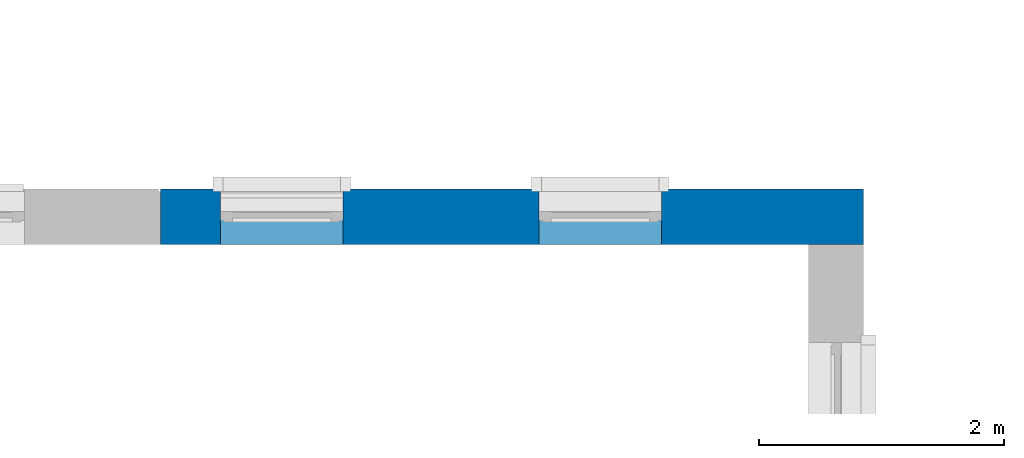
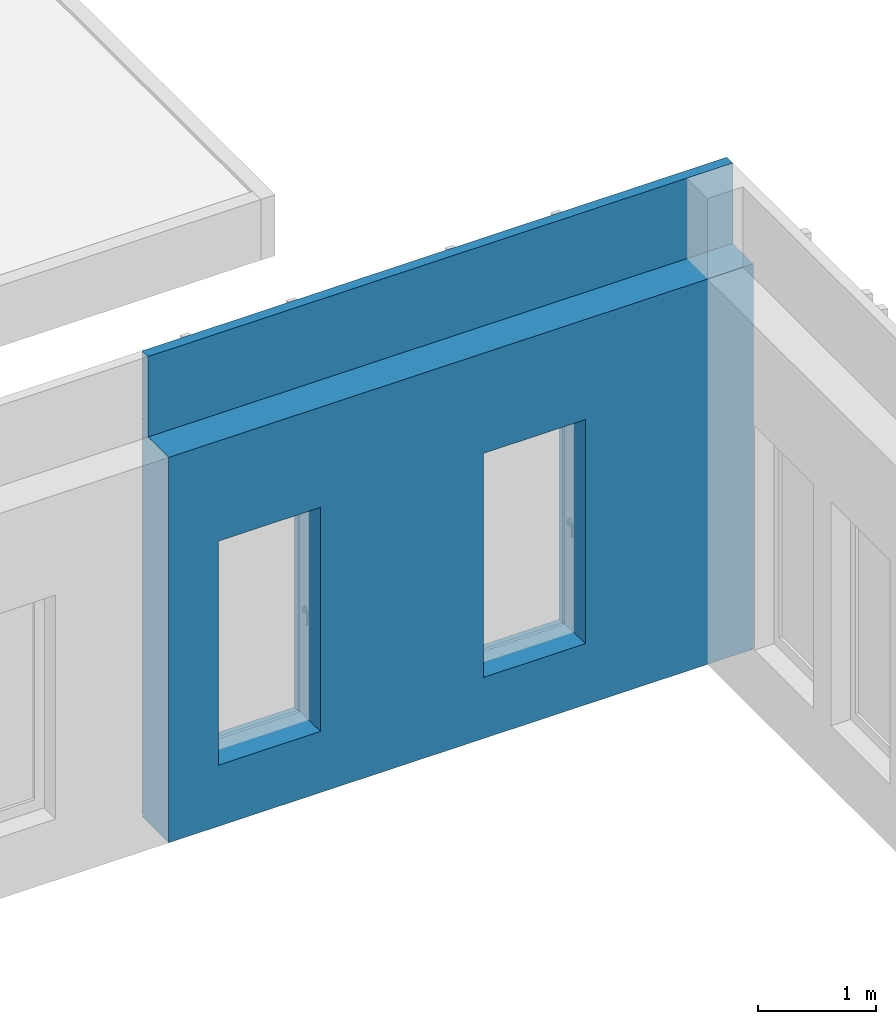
# One storey, part 13 of 33: 1 wall, 4 openings.
"""IFC2X3 building model written with IfcOpenShell, lengths in millimetres."""

from ifc_helpers import new_model, entity, si_unit, converted_unit, derived_unit, direction, frame, frame_2d, origin, place, context, subcontext, project, spatial, polyline, rectangle, extrude, clip, bounded_halfspace, faceted_brep, material, layer, layer_set, layer_usage, type_object, element, save


model = new_model("IFC2X3")

# Units and contexts
model_context = context("Model", 3, precision=0.01, world=origin(), true_north=direction((6.12303176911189e-17, 1.0)))
body_context = subcontext(model_context, "Body", "Model", "MODEL_VIEW")
ifc_project = project(units=[si_unit("LENGTHUNIT", "METRE", prefix="MILLI"), si_unit("AREAUNIT", "SQUARE_METRE"), si_unit("VOLUMEUNIT", "CUBIC_METRE"), converted_unit("PLANEANGLEUNIT", "DEGREE", entity("IfcRatioMeasure", 0.0174532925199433), si_unit("PLANEANGLEUNIT", "RADIAN"), dimensions=[0, 0, 0, 0, 0, 0, 0]), si_unit("MASSUNIT", "GRAM", prefix="KILO"), derived_unit("MASSDENSITYUNIT", [(si_unit("MASSUNIT", "GRAM", prefix="KILO"), 1), (si_unit("LENGTHUNIT", "METRE"), -3)]), si_unit("TIMEUNIT", "SECOND"), si_unit("FREQUENCYUNIT", "HERTZ"), si_unit("THERMODYNAMICTEMPERATUREUNIT", "DEGREE_CELSIUS"), derived_unit("THERMALTRANSMITTANCEUNIT", [(si_unit("MASSUNIT", "GRAM", prefix="KILO"), 1), (si_unit("THERMODYNAMICTEMPERATUREUNIT", "KELVIN"), -1), (si_unit("TIMEUNIT", "SECOND"), -3)]), derived_unit("VOLUMETRICFLOWRATEUNIT", [(si_unit("LENGTHUNIT", "METRE"), 3), (si_unit("TIMEUNIT", "SECOND"), -1)]), si_unit("ELECTRICCURRENTUNIT", "AMPERE"), si_unit("ELECTRICVOLTAGEUNIT", "VOLT"), si_unit("POWERUNIT", "WATT"), si_unit("FORCEUNIT", "NEWTON", prefix="KILO"), si_unit("ILLUMINANCEUNIT", "LUX"), si_unit("LUMINOUSFLUXUNIT", "LUMEN"), si_unit("LUMINOUSINTENSITYUNIT", "CANDELA"), derived_unit("USERDEFINED", [(si_unit("MASSUNIT", "GRAM", prefix="KILO"), -1), (si_unit("LENGTHUNIT", "METRE"), -2), (si_unit("TIMEUNIT", "SECOND"), 3), (si_unit("LUMINOUSFLUXUNIT", "LUMEN"), 1)]), derived_unit("LINEARVELOCITYUNIT", [(si_unit("LENGTHUNIT", "METRE"), 1), (si_unit("TIMEUNIT", "SECOND"), -1)]), si_unit("PRESSUREUNIT", "PASCAL"), derived_unit("USERDEFINED", [(si_unit("LENGTHUNIT", "METRE"), -2), (si_unit("MASSUNIT", "GRAM", prefix="KILO"), 1), (si_unit("TIMEUNIT", "SECOND"), -2)])], contexts=[model_context])

# Site, building, storey
site_placement = place(None, origin())
site = spatial("IfcSite", under=ifc_project, at=site_placement, Name="Default", CompositionType="ELEMENT")
building_placement = place(site_placement, origin())
building = spatial("IfcBuilding", under=site, at=building_placement, CompositionType="ELEMENT")
storey_placement = place(building_placement, frame((0.0, 0.0, 4000.0)))
storey = spatial("IfcBuildingStorey", under=building, at=storey_placement, Name="2. KORRUS", CompositionType="ELEMENT", Elevation=4000.0)

# Wall, openings
ifc_material_1 = material(Name="RECKLI 1 173 THUR by Polantis 2016-toon4")
ifc_layer_1 = layer(ifc_material_1, 100.0)
ifc_material_2 = material(Name="Soojusisolatsioon EPS")
ifc_layer_2 = layer(ifc_material_2, 200.0)
ifc_material_3 = material(Name="r/b")
ifc_layer_3 = layer(ifc_material_3, 150.0)
ifc_layer_set = layer_set([ifc_layer_1, ifc_layer_2, ifc_layer_3], Name="Basic Wall:VS-1_toon-a")
ifc_layer_usage = layer_usage(ifc_layer_set, "AXIS2", "NEGATIVE", 225.0)
wall_type = type_object("IfcWallType", Name="Basic Wall:VS-1_toon-a", PredefinedType="STANDARD", material=ifc_layer_set)
wall_placement = place(storey_placement, frame((3910.0, 27825.0, -135.0)))
wall = element("IfcWallStandardCase", 1, at=wall_placement, inside=storey, type_object=wall_type, material=ifc_layer_usage, Name="Basic Wall:VS-1_toon-a", ObjectType="Basic Wall:VS-1_toon-a", context=body_context, shape_type="Clipping", body=[
    clip(extrude(rectangle(XDim=5739.99999999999, YDim=450.000000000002, at=frame_2d((2870.0, 8.10018718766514e-13), x_axis=(-1.0, 0.0))), origin(), (0.0, 0.0, 1.0), 4835.0), bounded_halfspace(frame((0.0, -225.0, 4000.0), z_axis=(0.0, 0.0, 1.0), x_axis=(0.0, 1.0, 0.0)), False, frame((0.0, -225.0, 4000.0)), polyline([(0.0, 0.0), (5290.0, 0.0), (5740.0, 0.0), (5740.0, 350.0), (5640.0, 350.0), (0.0, 350.0), (0.0, 0.0)]))),
])
opening_1_placement = place(wall_placement, frame((-4360.0, -28275.0, 4.0)))
element("IfcOpeningElement", 2, at=opening_1_placement, cuts=wall, Name="Basic Wall:VS-1_toon-a", ObjectType="Opening", context=body_context, shape_type="Brep", body=[
    faceted_brep([(11850.0, 20.0, 16.0), (11850.0, 0.0, 16.0), (11850.0, 0.0, 0.0), (11850.0, 20.0, 0.0), (4260.0, 20.0, 16.0), (4260.0, 20.0, 0.0), (4260.0, 0.0, 0.0), (4260.0, 0.0, 16.0)], [[[0, 1, 2, 3]], [[4, 5, 6, 7]], [[1, 0, 4, 7]], [[2, 1, 7, 6]], [[3, 2, 6, 5]], [[0, 3, 5, 4]]]),
    faceted_brep([(20.0, 28480.0, 16.0), (20.0, 28480.0, 0.0), (0.0, 28500.0, 0.0), (0.0, 28500.0, 16.0), (20.0, 23740.0, 16.0), (0.0, 23740.0, 16.0), (0.0, 23740.0, 0.0), (20.0, 23740.0, 0.0)], [[[0, 1, 2, 3]], [[4, 5, 6, 7]], [[1, 0, 4, 7]], [[2, 1, 7, 6]], [[3, 2, 6, 5]], [[0, 3, 5, 4]]]),
    faceted_brep([(10080.0, 22380.0517807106, 16.0), (10100.0, 22400.0517807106, 16.0), (10100.0, 22400.0517807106, 0.0), (10080.0, 22380.0517807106, 0.0), (15330.3475962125, 22380.0517807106, 16.0), (15330.3475962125, 22380.0517807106, 0.0), (15330.3475962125, 22400.0517807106, 0.0), (15330.3475962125, 22400.0517807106, 16.0)], [[[0, 1, 2, 3]], [[4, 5, 6, 7]], [[1, 0, 4, 7]], [[2, 1, 7, 6]], [[3, 2, 6, 5]], [[0, 3, 5, 4]]]),
    faceted_brep([(20.0, 28480.0, 16.0), (0.0, 28500.0, 16.0), (0.0, 28500.0, 0.0), (20.0, 28480.0, 0.0), (4360.0, 28480.0, 16.0), (4360.0, 28480.0, 0.0), (4360.0, 28500.0, 0.0), (4360.0, 28500.0, 16.0)], [[[0, 1, 2, 3]], [[4, 5, 6, 7]], [[1, 0, 4, 7]], [[2, 1, 7, 6]], [[3, 2, 6, 5]], [[0, 3, 5, 4]]]),
    faceted_brep([(40380.0, 20.0, 16.0), (40400.0, 0.0, 16.0), (40400.0, 0.0, 0.0), (40380.0, 20.0, 0.0), (35250.0, 20.0, 16.0), (35250.0, 20.0, 0.0), (35250.0, 0.0, 0.0), (35250.0, 0.0, 16.0)], [[[0, 1, 2, 3]], [[4, 5, 6, 7]], [[1, 0, 4, 7]], [[2, 1, 7, 6]], [[3, 2, 6, 5]], [[0, 3, 5, 4]]]),
    faceted_brep([(34420.1035702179, 22380.0517807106, 16.0), (34420.1035702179, 22400.0517807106, 16.0), (34420.1035702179, 22400.0517807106, 0.0), (34420.1035702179, 22380.0517807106, 0.0), (40380.0, 22380.0517807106, 16.0), (40380.0, 22380.0517807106, 0.0), (40400.0, 22400.0517807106, 0.0), (40400.0, 22400.0517807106, 16.0)], [[[0, 1, 2, 3]], [[4, 5, 6, 7]], [[1, 0, 4, 7]], [[2, 1, 7, 6]], [[3, 2, 6, 5]], [[0, 3, 5, 4]]]),
    faceted_brep([(29113.2161487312, 22380.0517807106, 16.0), (29113.2161487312, 22400.0517807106, 16.0), (29113.2161487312, 22400.0517807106, 0.0), (29113.2161487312, 22380.0517807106, 0.0), (34420.1035702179, 22380.0517807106, 16.0), (34420.1035702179, 22380.0517807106, 0.0), (34420.1035702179, 22400.0517807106, 0.0), (34420.1035702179, 22400.0517807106, 16.0)], [[[0, 1, 2, 3]], [[4, 5, 6, 7]], [[1, 0, 4, 7]], [[2, 1, 7, 6]], [[3, 2, 6, 5]], [[0, 3, 5, 4]]]),
    faceted_brep([(10080.0, 28480.0, 16.0), (10100.0, 28500.0, 16.0), (10100.0, 28500.0, 0.0), (10080.0, 28480.0, 0.0), (10080.0, 22380.0517807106, 16.0), (10080.0, 22380.0517807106, 0.0), (10100.0, 22400.0517807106, 0.0), (10100.0, 22400.0517807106, 16.0)], [[[0, 1, 2, 3]], [[4, 5, 6, 7]], [[1, 0, 4, 7]], [[2, 1, 7, 6]], [[3, 2, 6, 5]], [[0, 3, 5, 4]]]),
    faceted_brep([(4260.0, 20.0, 16.0), (4260.0, 0.0, 16.0), (4260.0, 0.0, 0.0), (4260.0, 20.0, 0.0), (0.0, 20.0, 16.0), (0.0, 20.0, 0.0), (0.0, 0.0, 0.0), (0.0, 0.0, 16.0)], [[[0, 1, 2, 3]], [[4, 5, 6, 7]], [[1, 0, 4, 7]], [[2, 1, 7, 6]], [[3, 2, 6, 5]], [[0, 3, 5, 4]]]),
    faceted_brep([(40380.0, 4865.0, 16.0), (40400.0, 4865.0, 16.0), (40400.0, 4865.0, 0.0), (40380.0, 4865.0, 0.0), (40380.0, 20.0, 16.0), (40380.0, 20.0, 0.0), (40400.0, 0.0, 0.0), (40400.0, 0.0, 16.0)], [[[0, 1, 2, 3]], [[4, 5, 6, 7]], [[1, 0, 4, 7]], [[2, 1, 7, 6]], [[3, 2, 6, 5]], [[0, 3, 5, 4]]]),
    faceted_brep([(40380.0, 9093.33000000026, 16.0), (40400.0, 9093.33000000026, 16.0), (40400.0, 9093.33000000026, 0.0), (40380.0, 9093.33000000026, 0.0), (40380.0, 4865.0, 16.0), (40380.0, 4865.0, 0.0), (40400.0, 4865.0, 0.0), (40400.0, 4865.0, 16.0)], [[[0, 1, 2, 3]], [[4, 5, 6, 7]], [[1, 0, 4, 7]], [[2, 1, 7, 6]], [[3, 2, 6, 5]], [[0, 3, 5, 4]]]),
    faceted_brep([(40380.0, 13210.0, 16.0), (40400.0, 13210.0, 16.0), (40400.0, 13210.0, 0.0), (40380.0, 13210.0, 0.0), (40380.0, 9093.33000000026, 16.0), (40380.0, 9093.33000000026, 0.0), (40400.0, 9093.33000000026, 0.0), (40400.0, 9093.33000000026, 16.0)], [[[0, 1, 2, 3]], [[4, 5, 6, 7]], [[1, 0, 4, 7]], [[2, 1, 7, 6]], [[3, 2, 6, 5]], [[0, 3, 5, 4]]]),
    faceted_brep([(40380.0, 16240.0, 16.0), (40400.0, 16240.0, 16.0), (40400.0, 16240.0, 0.0), (40380.0, 16240.0, 0.0), (40380.0, 13210.0, 16.0), (40380.0, 13210.0, 0.0), (40400.0, 13210.0, 0.0), (40400.0, 13210.0, 16.0)], [[[0, 1, 2, 3]], [[4, 5, 6, 7]], [[1, 0, 4, 7]], [[2, 1, 7, 6]], [[3, 2, 6, 5]], [[0, 3, 5, 4]]]),
    faceted_brep([(40380.0, 22380.0517807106, 16.0), (40400.0, 22400.0517807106, 16.0), (40400.0, 22400.0517807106, 0.0), (40380.0, 22380.0517807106, 0.0), (40380.0, 16240.0, 16.0), (40380.0, 16240.0, 0.0), (40400.0, 16240.0, 0.0), (40400.0, 16240.0, 16.0)], [[[0, 1, 2, 3]], [[4, 5, 6, 7]], [[1, 0, 4, 7]], [[2, 1, 7, 6]], [[3, 2, 6, 5]], [[0, 3, 5, 4]]]),
    faceted_brep([(22535.0, 22380.0517807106, 16.0), (22535.0, 22400.0517807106, 16.0), (22535.0, 22400.0517807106, 0.0), (22535.0, 22380.0517807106, 0.0), (29113.2161487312, 22380.0517807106, 16.0), (29113.2161487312, 22380.0517807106, 0.0), (29113.2161487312, 22400.0517807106, 0.0), (29113.2161487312, 22400.0517807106, 16.0)], [[[0, 1, 2, 3]], [[4, 5, 6, 7]], [[1, 0, 4, 7]], [[2, 1, 7, 6]], [[3, 2, 6, 5]], [[0, 3, 5, 4]]]),
    faceted_brep([(18703.3528910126, 22380.0517807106, 16.0), (18703.3528910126, 22400.0517807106, 16.0), (18703.3528910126, 22400.0517807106, 0.0), (18703.3528910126, 22380.0517807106, 0.0), (22535.0, 22380.0517807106, 16.0), (22535.0, 22380.0517807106, 0.0), (22535.0, 22400.0517807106, 0.0), (22535.0, 22400.0517807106, 16.0)], [[[0, 1, 2, 3]], [[4, 5, 6, 7]], [[1, 0, 4, 7]], [[2, 1, 7, 6]], [[3, 2, 6, 5]], [[0, 3, 5, 4]]]),
    faceted_brep([(15330.3475962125, 22380.0517807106, 16.0), (15330.3475962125, 22400.0517807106, 16.0), (15330.3475962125, 22400.0517807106, 0.0), (15330.3475962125, 22380.0517807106, 0.0), (18703.3528910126, 22380.0517807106, 16.0), (18703.3528910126, 22380.0517807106, 0.0), (18703.3528910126, 22400.0517807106, 0.0), (18703.3528910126, 22400.0517807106, 16.0)], [[[0, 1, 2, 3]], [[4, 5, 6, 7]], [[1, 0, 4, 7]], [[2, 1, 7, 6]], [[3, 2, 6, 5]], [[0, 3, 5, 4]]]),
    faceted_brep([(4360.0, 28480.0, 16.0), (4360.0, 28500.0, 16.0), (4360.0, 28500.0, 0.0), (4360.0, 28480.0, 0.0), (10080.0, 28480.0, 16.0), (10080.0, 28480.0, 0.0), (10100.0, 28500.0, 0.0), (10100.0, 28500.0, 16.0)], [[[0, 1, 2, 3]], [[4, 5, 6, 7]], [[1, 0, 4, 7]], [[2, 1, 7, 6]], [[3, 2, 6, 5]], [[0, 3, 5, 4]]]),
    faceted_brep([(20.0, 23740.0, 16.0), (20.0, 23740.0, 0.0), (0.0, 23740.0, 0.0), (0.0, 23740.0, 16.0), (20.0, 16890.0006972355, 16.0), (0.0, 16890.0006972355, 16.0), (0.0, 16890.0006972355, 0.0), (20.0, 16890.0006972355, 0.0)], [[[0, 1, 2, 3]], [[4, 5, 6, 7]], [[1, 0, 4, 7]], [[2, 1, 7, 6]], [[3, 2, 6, 5]], [[0, 3, 5, 4]]]),
    faceted_brep([(20.0, 16890.0006972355, 16.0), (20.0, 16890.0006972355, 0.0), (0.0, 16890.0006972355, 0.0), (0.0, 16890.0006972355, 16.0), (20.0, 13460.0, 16.0), (0.0, 13460.0, 16.0), (0.0, 13460.0, 0.0), (20.0, 13460.0, 0.0)], [[[0, 1, 2, 3]], [[4, 5, 6, 7]], [[1, 0, 4, 7]], [[2, 1, 7, 6]], [[3, 2, 6, 5]], [[0, 3, 5, 4]]]),
])
opening_2_placement = place(wall_placement, origin())
element("IfcOpeningElement", 3, at=opening_2_placement, cuts=wall, Name="Basic Wall:VS-1_toon-a", ObjectType="Opening", context=body_context, shape_type="SweptSolid", body=[
    extrude(rectangle(XDim=15.9999999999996, YDim=7590.0, at=frame_2d((0.0, -5.40900657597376e-13), x_axis=(0.0, 1.0))), frame((3695.0, -28275.0, 4147.0), z_axis=(0.0, 1.0, 0.0), x_axis=(-1.0, 0.0, 0.0)), (0.0, 0.0, 1.0), 20.0),
    extrude(rectangle(XDim=15.9999999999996, YDim=20.0, at=frame_2d((5.40900657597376e-13, -3.37507799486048e-14), x_axis=(1.0, 0.0))), frame((-4350.0, -4535.0, 4147.0), z_axis=(0.0, 1.0, 0.0), x_axis=(0.0, 0.0, -1.0)), (0.0, 0.0, 1.0), 4660.0),
    extrude(rectangle(XDim=15.9999999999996, YDim=5230.3475962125, at=frame_2d((0.0, 5.40900657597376e-13), x_axis=(0.0, 1.0))), frame((8355.17379810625, -5894.94821928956, 4147.0), z_axis=(0.0, 1.0, 0.0), x_axis=(1.0, 0.0, 0.0)), (0.0, 0.0, 1.0), 19.9999999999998),
    extrude(rectangle(XDim=15.9999999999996, YDim=4360.0, at=frame_2d((0.0, 5.40900657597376e-13), x_axis=(0.0, 1.0))), frame((-2180.0, 205.0, 4147.0), z_axis=(0.0, 1.0, 0.0), x_axis=(1.0, 0.0, 0.0)), (0.0, 0.0, 1.0), 19.9999999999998),
    extrude(rectangle(XDim=15.9999999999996, YDim=5050.0, at=frame_2d((2.27373675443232e-12, 0.0), x_axis=(0.0, 1.0))), frame((33415.0, -28275.0, 4147.0), z_axis=(0.0, 1.0, 0.0), x_axis=(-1.0, 0.0, 0.0)), (0.0, 0.0, 1.0), 20.0),
    extrude(rectangle(XDim=15.9999999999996, YDim=5979.89642978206, at=frame_2d((-2.27373675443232e-12, 0.0), x_axis=(0.0, 1.0))), frame((33050.051785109, -5894.94821928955, 4147.0), z_axis=(0.0, 1.0, 0.0), x_axis=(1.0, 0.0, 0.0)), (0.0, 0.0, 1.0), 19.9999999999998),
    extrude(rectangle(XDim=15.9999999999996, YDim=5306.88742148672, at=frame_2d((2.04636307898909e-12, 5.40900657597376e-13), x_axis=(0.0, 1.0))), frame((27406.6598594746, -5894.94821928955, 4147.0), z_axis=(0.0, 1.0, 0.0), x_axis=(1.0, 0.0, 0.0)), (0.0, 0.0, 1.0), 19.9999999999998),
    extrude(rectangle(XDim=15.9999999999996, YDim=19.9999999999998, at=frame_2d((0.0, 5.40900657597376e-13), x_axis=(0.0, 1.0))), frame((5730.0, -5974.94821928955, 4147.0), z_axis=(0.0, 1.0, 0.0), x_axis=(1.0, 0.0, 0.0)), (0.0, 0.0, 1.0), 6099.94821928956),
    extrude(rectangle(XDim=15.9999999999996, YDim=4160.00000000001, at=frame_2d((0.0, -5.40900657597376e-13), x_axis=(0.0, 1.0))), frame((-2180.0, -28275.0, 4147.0), z_axis=(0.0, 1.0, 0.0), x_axis=(-1.0, 0.0, 0.0)), (0.0, 0.0, 1.0), 20.0),
    extrude(rectangle(XDim=15.9999999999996, YDim=20.0000000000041, at=frame_2d((4.33164615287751e-12, 5.40900657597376e-13), x_axis=(0.0, 1.0))), frame((36030.0, -28275.0, 4147.0), z_axis=(0.0, 1.0, 0.0), x_axis=(1.0, 0.0, 0.0)), (0.0, 0.0, 1.0), 4865.0),
    extrude(rectangle(XDim=15.9999999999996, YDim=20.0000000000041, at=frame_2d((-4.33164615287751e-12, -5.40900657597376e-13), x_axis=(0.0, 1.0))), frame((36030.0, -23410.0, 4147.0), z_axis=(0.0, 1.0, 0.0), x_axis=(1.0, 0.0, 0.0)), (0.0, 0.0, 1.0), 4228.33000000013),
    extrude(rectangle(XDim=15.9999999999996, YDim=20.0000000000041, at=frame_2d((-4.33164615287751e-12, -5.40900657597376e-13), x_axis=(0.0, 1.0))), frame((36030.0, -19181.6699999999, 4147.0), z_axis=(0.0, 1.0, 0.0), x_axis=(1.0, 0.0, 0.0)), (0.0, 0.0, 1.0), 4236.66999997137),
    extrude(rectangle(XDim=15.9999999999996, YDim=20.0000000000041, at=frame_2d((4.33164615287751e-12, 5.40900657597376e-13), x_axis=(0.0, 1.0))), frame((36030.0, -14945.0, 4147.0), z_axis=(0.0, 1.0, 0.0), x_axis=(1.0, 0.0, 0.0)), (0.0, 0.0, 1.0), 2910.00000002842),
    extrude(rectangle(XDim=15.9999999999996, YDim=20.0000000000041, at=frame_2d((-4.33164615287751e-12, 5.40900657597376e-13), x_axis=(0.0, 1.0))), frame((36030.0, -12035.0, 4147.0), z_axis=(0.0, 1.0, 0.0), x_axis=(1.0, 0.0, 0.0)), (0.0, 0.0, 1.0), 6060.05178071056),
    extrude(rectangle(XDim=15.9999999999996, YDim=3831.64710898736, at=frame_2d((1.13686837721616e-12, 5.40900657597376e-13), x_axis=(0.0, 1.0))), frame((16259.1764455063, -5894.94821928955, 4147.0), z_axis=(0.0, 1.0, 0.0), x_axis=(1.0, 0.0, 0.0)), (0.0, 0.0, 1.0), 19.9999999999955),
    extrude(rectangle(XDim=15.9999999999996, YDim=3373.00529480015, at=frame_2d((0.0, 5.40900657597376e-13), x_axis=(0.0, 1.0))), frame((12656.8502436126, -5894.94821928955, 4147.0), z_axis=(0.0, 1.0, 0.0), x_axis=(1.0, 0.0, 0.0)), (0.0, 0.0, 1.0), 19.9999999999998),
    extrude(rectangle(XDim=15.9999999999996, YDim=5739.99999999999, at=frame_2d((-2.27373675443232e-13, 5.40900657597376e-13), x_axis=(0.0, 1.0))), frame((2870.0, 205.0, 4147.0), z_axis=(0.0, 1.0, 0.0), x_axis=(1.0, 0.0, 0.0)), (0.0, 0.0, 1.0), 19.9999999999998),
    extrude(rectangle(XDim=15.9999999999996, YDim=20.0, at=frame_2d((5.40900657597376e-13, -3.37507799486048e-14), x_axis=(1.0, 0.0))), frame((-4350.0, -11384.9993027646, 4147.0), z_axis=(0.0, 1.0, 0.0), x_axis=(0.0, 0.0, -1.0)), (0.0, 0.0, 1.0), 6849.99930276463),
    extrude(rectangle(XDim=15.9999999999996, YDim=20.0, at=frame_2d((5.40900657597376e-13, 3.37507799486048e-14), x_axis=(1.0, 0.0))), frame((-4350.0, -14815.0, 4147.0), z_axis=(0.0, 1.0, 0.0), x_axis=(0.0, 0.0, -1.0)), (0.0, 0.0, 1.0), 3430.00069726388),
    extrude(rectangle(XDim=15.9999999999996, YDim=6578.21614873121, at=frame_2d((0.0, 5.40900657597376e-13), x_axis=(0.0, 1.0))), frame((21464.1080743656, -5894.94821928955, 4147.0), z_axis=(0.0, 1.0, 0.0), x_axis=(1.0, 0.0, 0.0)), (0.0, 0.0, 1.0), 19.9999999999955),
    extrude(rectangle(XDim=15.9999999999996, YDim=4110.0, at=frame_2d((1.13686837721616e-12, -5.40900657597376e-13), x_axis=(0.0, 1.0))), frame((9545.0, -28275.0, 4147.0), z_axis=(0.0, 1.0, 0.0), x_axis=(-1.0, 0.0, 0.0)), (0.0, 0.0, 1.0), 19.9999999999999),
    extrude(rectangle(XDim=15.9999999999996, YDim=4600.0, at=frame_2d((-2.27373675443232e-12, -5.40900657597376e-13), x_axis=(0.0, 1.0))), frame((13900.0, -28275.0, 4147.0), z_axis=(0.0, 1.0, 0.0), x_axis=(-1.0, 0.0, 0.0)), (0.0, 0.0, 1.0), 20.0),
    extrude(rectangle(XDim=15.9999999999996, YDim=4600.0, at=frame_2d((2.27373675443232e-12, -5.40900657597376e-13), x_axis=(0.0, 1.0))), frame((18500.0, -28275.0, 4147.0), z_axis=(0.0, 1.0, 0.0), x_axis=(-1.0, 0.0, 0.0)), (0.0, 0.0, 1.0), 20.0),
    extrude(rectangle(XDim=15.9999999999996, YDim=5299.99999999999, at=frame_2d((-2.04636307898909e-12, -5.40900657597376e-13), x_axis=(0.0, 1.0))), frame((23450.0, -28275.0, 4147.0), z_axis=(0.0, 1.0, 0.0), x_axis=(-1.0, 0.0, 0.0)), (0.0, 0.0, 1.0), 20.0),
    extrude(rectangle(XDim=15.9999999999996, YDim=4790.0, at=frame_2d((0.0, -5.40900657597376e-13), x_axis=(0.0, 1.0))), frame((28495.0, -28275.0, 4147.0), z_axis=(0.0, 1.0, 0.0), x_axis=(-1.0, 0.0, 0.0)), (0.0, 0.0, 1.0), 20.0000000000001),
    extrude(rectangle(XDim=15.9999999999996, YDim=20.0, at=frame_2d((5.40900657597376e-13, -3.37507799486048e-14), x_axis=(1.0, 0.0))), frame((-4350.0, -19539.8592048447, 4147.0), z_axis=(0.0, 1.0, 0.0), x_axis=(0.0, 0.0, -1.0)), (0.0, 0.0, 1.0), 4724.85920481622),
    extrude(rectangle(XDim=15.9999999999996, YDim=20.0, at=frame_2d((5.40900657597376e-13, -3.37507799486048e-14), x_axis=(1.0, 0.0))), frame((-4350.0, -28275.0, 4147.0), z_axis=(0.0, 1.0, 0.0), x_axis=(0.0, 0.0, -1.0)), (0.0, 0.0, 1.0), 8735.1407951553),
])
opening_3_placement = place(wall_placement, frame((490.0, -225.0, 613.057009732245)))
element("IfcOpeningElement", 4, at=opening_3_placement, cuts=wall, Name="Basic Wall:VS-1_toon-a", ObjectType="Opening", context=body_context, shape_type="Brep", body=[
    faceted_brep([(0.0, 0.0, 2346.94299026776), (0.0, 0.0, 21.9429902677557), (1000.0, 0.0, 21.9429902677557), (1000.0, 0.0, 2346.94299026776), (1000.0, 450.0, 2721.94299026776), (1000.0, 450.0, 0.0), (0.0, 450.0, 0.0), (0.0, 450.0, 2721.94299026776), (0.0, 250.0, 2346.94299026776), (0.0, 250.0, 2721.94299026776), (0.0, 325.555118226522, 21.9429902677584), (1000.0, 325.555118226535, 21.9429902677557), (1000.0, 250.0, 2721.94299026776), (1000.0, 250.0, 2346.94299026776)], [[[0, 1, 2, 3]], [[4, 5, 6, 7]], [[0, 8, 9, 7, 6, 10, 1]], [[1, 10, 11, 2]], [[2, 11, 5, 4, 12, 13, 3]], [[3, 13, 8, 0]], [[9, 8, 13, 12]], [[12, 4, 7, 9]], [[6, 5, 11, 10]]]),
])
opening_4_placement = place(wall_placement, frame((3090.0, -225.0, 613.057009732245)))
element("IfcOpeningElement", 5, at=opening_4_placement, cuts=wall, Name="Basic Wall:VS-1_toon-a", ObjectType="Opening", context=body_context, shape_type="Brep", body=[
    faceted_brep([(0.0, 0.0, 2346.94299026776), (0.0, 0.0, 21.9429902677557), (1000.0, 0.0, 21.9429902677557), (1000.0, 0.0, 2346.94299026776), (1000.0, 450.0, 2721.94299026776), (1000.0, 450.0, 0.0), (0.0, 450.0, 0.0), (0.0, 450.0, 2721.94299026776), (0.0, 250.0, 2346.94299026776), (0.0, 250.0, 2721.94299026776), (0.0, 325.555118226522, 21.9429902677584), (1000.0, 325.555118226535, 21.9429902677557), (1000.0, 250.0, 2721.94299026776), (1000.0, 250.0, 2346.94299026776)], [[[0, 1, 2, 3]], [[4, 5, 6, 7]], [[0, 8, 9, 7, 6, 10, 1]], [[1, 10, 11, 2]], [[2, 11, 5, 4, 12, 13, 3]], [[3, 13, 8, 0]], [[9, 8, 13, 12]], [[12, 4, 7, 9]], [[6, 5, 11, 10]]]),
])

save(model, "model.ifc")
